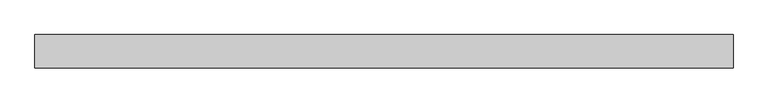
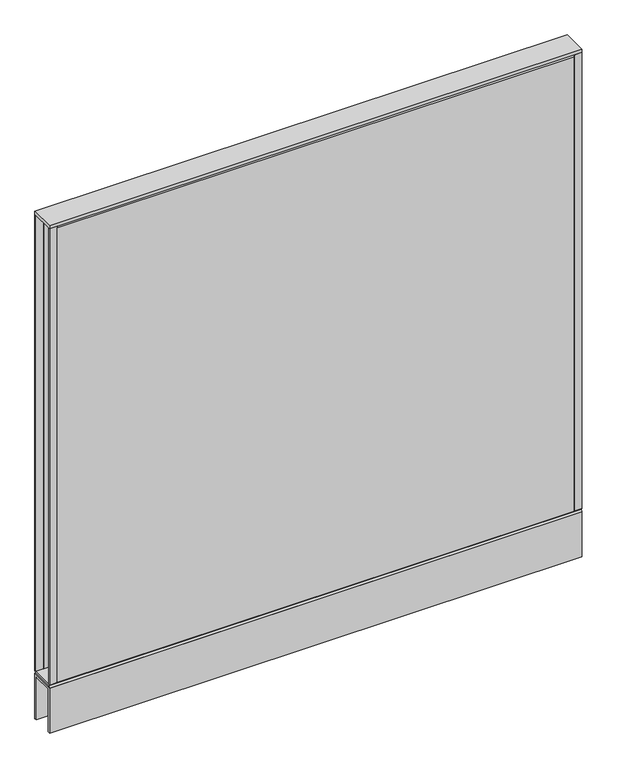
"""IFC4 building model written with IfcOpenShell, lengths in millimetres: furniture geometry, Steelcase - Kick Solutions - Panel - Monolithic - Tackable Acoustical : 42H x 42W."""

from ifc_helpers import new_model, si_unit, frame, origin, place, context, project, spatial, polyline, outline, extrude, source, transform, mapped, element, save


def furniture_88432a89(model_context):
    return source(origin(), model_context, "Body", "SweptSolid", [
        extrude(outline(polyline([(0.0, 101.7169049), (-3.1750015, 101.7169049), (-3.1750015, 1066.9169018), (0.0, 1063.8357466), (0.0, 101.7169049)])), frame((15.8749996, 0.0, 0.0), z_axis=(1.0, 0.0, 0.0), x_axis=(0.0, 1.0, 0.0)), (0.0, 0.0, 1.0), 1035.0500008),
        extrude(outline(polyline([(-50.8000015, 101.7169049), (-50.8000015, 1063.8357466), (-47.625, 1066.9169018), (-47.625, 101.7169049), (-50.8000015, 101.7169049)])), frame((15.8749996, 0.0, 0.0), z_axis=(1.0, 0.0, 0.0), x_axis=(0.0, 1.0, 0.0)), (0.0, 0.0, 1.0), 1035.0500008),
        extrude(outline(polyline([(1066.8, -3.1750015), (1050.9250004, -3.1750015), (1050.9250004, 0.0), (1066.8, 0.0), (1066.8, -3.1750015)])), frame((0.0, 0.0, 101.7169049), z_axis=(0.0, 0.0, 1.0), x_axis=(1.0, 0.0, 0.0)), (0.0, 0.0, 1.0), 965.199997),
        extrude(outline(polyline([(15.8749996, -50.8000015), (0.0, -50.8000015), (0.0, -47.625), (15.8749996, -47.625), (15.8749996, -50.8000015)])), frame((0.0, 0.0, 101.7169049), z_axis=(0.0, 0.0, 1.0), x_axis=(1.0, 0.0, 0.0)), (0.0, 0.0, 1.0), 965.199997),
        extrude(outline(polyline([(-50.7995075, 101.7169049), (-0.000494, 101.7169049), (-3.0583512, 98.5421458), (-47.7416503, 98.5421458), (-50.7995075, 101.7169049)])), frame((0.0, 0.0, 0.0), z_axis=(1.0, 0.0, 0.0), x_axis=(0.0, 1.0, 0.0)), (0.0, 0.0, 1.0), 1066.8),
        extrude(outline(polyline([(1066.8, 0.0), (1066.8, -50.8000015), (0.0, -50.8000015), (0.0, 0.0), (1066.8, 0.0)])), frame((0.0, 0.0, 1066.9169018), z_axis=(0.0, 0.0, 1.0), x_axis=(1.0, 0.0, 0.0)), (0.0, 0.0, 1.0), 6.35),
        extrude(outline(polyline([(15.8749996, -3.1750015), (0.0, -3.1750015), (0.0, 0.0), (15.8749996, 0.0), (15.8749996, -3.1750015)])), frame((0.0, 0.0, 101.7169049), z_axis=(0.0, 0.0, 1.0), x_axis=(1.0, 0.0, 0.0)), (0.0, 0.0, 1.0), 965.199997),
        extrude(outline(polyline([(1066.8, -50.8000015), (1050.9250004, -50.8000015), (1050.9250004, -47.625), (1066.8, -47.625), (1066.8, -50.8000015)])), frame((0.0, 0.0, 101.7169049), z_axis=(0.0, 0.0, 1.0), x_axis=(1.0, 0.0, 0.0)), (0.0, 0.0, 1.0), 965.199997),
        extrude(outline(polyline([(-50.8000015, 95.3668927), (-47.6247484, 98.5421458), (-3.1752531, 98.5421458), (0.0, 95.3668927), (-50.8000015, 95.3668927)])), frame((0.0, 0.0, 0.0), z_axis=(1.0, 0.0, 0.0), x_axis=(0.0, 1.0, 0.0)), (0.0, 0.0, 1.0), 1066.8),
        extrude(outline(polyline([(0.0, 0.0), (-5.08, 0.0), (-5.08, 90.2869018), (-45.7200015, 90.2869018), (-45.7200015, 0.0), (-50.8000015, 0.0), (-50.8000015, 95.3669018), (0.0, 95.3669018), (0.0, 0.0)])), frame((0.0, 0.0, 0.0), z_axis=(1.0, 0.0, 0.0), x_axis=(0.0, 1.0, 0.0)), (0.0, 0.0, 1.0), 1066.8),
    ])


if __name__ == "__main__":
    model = new_model("IFC4")
    model_context = context("Model", 3, world=origin())
    ifc_project = project(units=[si_unit("LENGTHUNIT", "METRE", prefix="MILLI")], contexts=[model_context])
    site = spatial("IfcSite", under=ifc_project)
    building = spatial("IfcBuilding", under=site)
    placement = place(None, origin())
    furniture_shape = furniture_88432a89(model_context)
    element("IfcFurniture", 1, ObjectType="Steelcase - Kick Solutions - Panel - Monolithic - Tackable Acoustical : 42H x 42W", at=placement, inside=building, context=model_context, shape_type="MappedRepresentation", body=[
        mapped(furniture_shape, transform((0.0, 0.0, 0.0), x_axis=(1.0, 0.0, 0.0), y_axis=(0.0, 1.0, 0.0), z_axis=(0.0, 0.0, 1.0))),
    ])
    save(model, "model.ifc")
